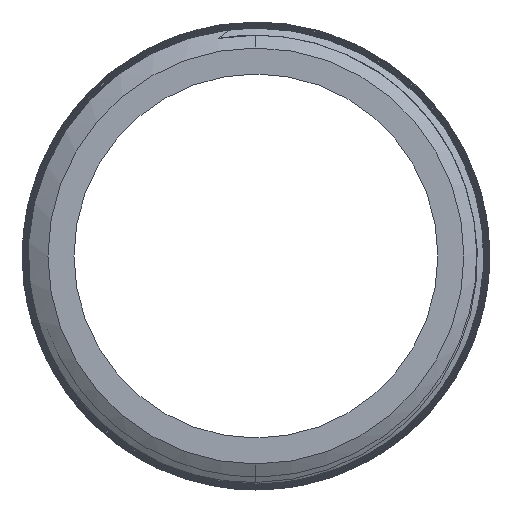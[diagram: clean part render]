
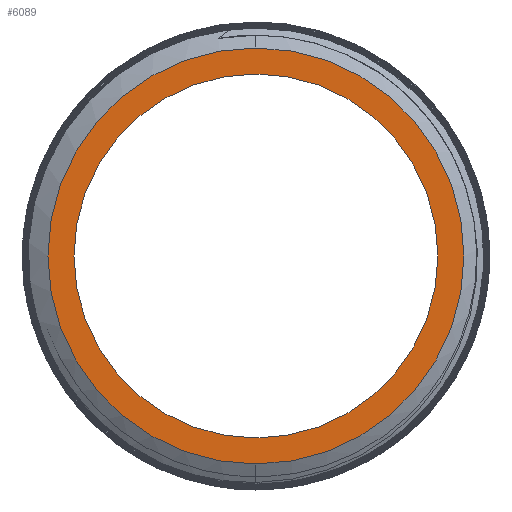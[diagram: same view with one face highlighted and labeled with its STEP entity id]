
A CAD part, left-side view. The second image highlights one B-rep face of the part: STEP entity #6089.
In plain terms, the highlighted planar face has unit normal (-1, 0, 0).
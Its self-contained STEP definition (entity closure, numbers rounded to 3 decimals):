
#50 = AXIS2_PLACEMENT_3D ( 'NONE', #10297, #10464, #6073 ) ;
#67 = AXIS2_PLACEMENT_3D ( 'NONE', #967, #2565, #8601 ) ;
#740 = CARTESIAN_POINT ( 'NONE',  ( -40., 0., 6. ) ) ;
#967 = CARTESIAN_POINT ( 'NONE',  ( -40., 5.25, 0. ) ) ;
#1069 = FACE_BOUND ( 'NONE', #4848, .T. ) ;
#1083 = ORIENTED_EDGE ( 'NONE', *, *, #5510, .T. ) ;
#1631 = DIRECTION ( 'NONE',  ( 0., 0., 1. ) ) ;
#2051 = CIRCLE ( 'NONE', #8030, 5.25 ) ;
#2098 = VERTEX_POINT ( 'NONE', #740 ) ;
#2272 = VERTEX_POINT ( 'NONE', #5076 ) ;
#2554 = EDGE_CURVE ( 'NONE', #2272, #5609, #3541, .T. ) ;
#2565 = DIRECTION ( 'NONE',  ( 1., 0., 0. ) ) ;
#3227 = EDGE_CURVE ( 'NONE', #6831, #2098, #3611, .T. ) ;
#3295 = DIRECTION ( 'NONE',  ( 0., 0., 1. ) ) ;
#3342 = ORIENTED_EDGE ( 'NONE', *, *, #3227, .T. ) ;
#3541 = CIRCLE ( 'NONE', #9684, 5.25 ) ;
#3611 = CIRCLE ( 'NONE', #9945, 6. ) ;
#3721 = CIRCLE ( 'NONE', #50, 6. ) ;
#4130 = CARTESIAN_POINT ( 'NONE',  ( -40., 0., 0. ) ) ;
#4253 = EDGE_LOOP ( 'NONE', ( #3342, #1083 ) ) ;
#4376 = CARTESIAN_POINT ( 'NONE',  ( -40., 0., -6. ) ) ;
#4848 = EDGE_LOOP ( 'NONE', ( #6153, #6891 ) ) ;
#5048 = FACE_OUTER_BOUND ( 'NONE', #4253, .T. ) ;
#5076 = CARTESIAN_POINT ( 'NONE',  ( -40., 0., -5.25 ) ) ;
#5510 = EDGE_CURVE ( 'NONE', #2098, #6831, #3721, .T. ) ;
#5609 = VERTEX_POINT ( 'NONE', #6527 ) ;
#6073 = DIRECTION ( 'NONE',  ( 0., 0., 1. ) ) ;
#6089 = ADVANCED_FACE ( 'NONE', ( #1069, #5048 ), #7787, .F. ) ;
#6153 = ORIENTED_EDGE ( 'NONE', *, *, #10121, .F. ) ;
#6527 = CARTESIAN_POINT ( 'NONE',  ( -40., 0., 5.25 ) ) ;
#6831 = VERTEX_POINT ( 'NONE', #4376 ) ;
#6891 = ORIENTED_EDGE ( 'NONE', *, *, #2554, .F. ) ;
#7049 = CARTESIAN_POINT ( 'NONE',  ( -40., 0., 0. ) ) ;
#7787 = PLANE ( 'NONE',  #67 ) ;
#8030 = AXIS2_PLACEMENT_3D ( 'NONE', #7049, #9610, #8156 ) ;
#8156 = DIRECTION ( 'NONE',  ( 0., 0., 1. ) ) ;
#8530 = DIRECTION ( 'NONE',  ( -1., 0., 0. ) ) ;
#8601 = DIRECTION ( 'NONE',  ( 0., 0., -1. ) ) ;
#9610 = DIRECTION ( 'NONE',  ( -1., 0., 0. ) ) ;
#9684 = AXIS2_PLACEMENT_3D ( 'NONE', #4130, #10822, #3295 ) ;
#9945 = AXIS2_PLACEMENT_3D ( 'NONE', #10127, #8530, #1631 ) ;
#10121 = EDGE_CURVE ( 'NONE', #5609, #2272, #2051, .T. ) ;
#10127 = CARTESIAN_POINT ( 'NONE',  ( -40., 0., 0. ) ) ;
#10297 = CARTESIAN_POINT ( 'NONE',  ( -40., 0., 0. ) ) ;
#10464 = DIRECTION ( 'NONE',  ( -1., 0., 0. ) ) ;
#10822 = DIRECTION ( 'NONE',  ( -1., 0., 0. ) ) ;
